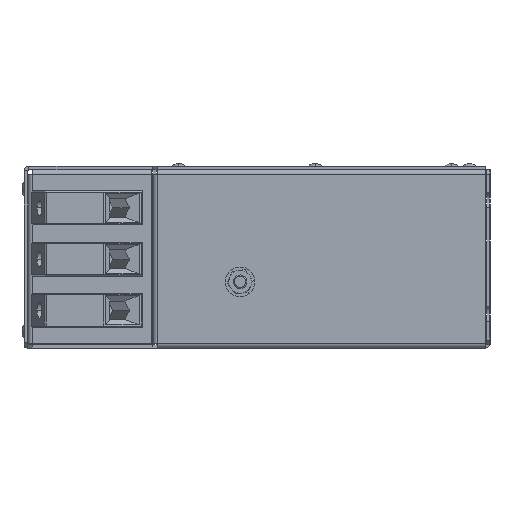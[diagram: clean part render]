
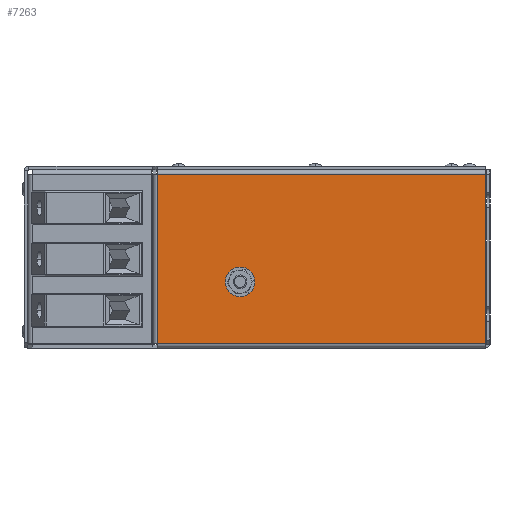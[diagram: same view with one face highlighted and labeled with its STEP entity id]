
A CAD part, left-side view. The second image highlights one B-rep face of the part: STEP entity #7263.
In plain terms, the highlighted planar face has unit normal (-1, 0, 0).
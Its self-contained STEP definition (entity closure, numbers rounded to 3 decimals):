
#12 = FACE_OUTER_BOUND ( 'NONE', #4838, .T. ) ;
#135 = CARTESIAN_POINT ( 'NONE',  ( -123.5, 108.5, -7.854 ) ) ;
#150 = CARTESIAN_POINT ( 'NONE',  ( -123.5, 145., 38.5 ) ) ;
#445 = AXIS2_PLACEMENT_3D ( 'NONE', #10516, #12132, #5688 ) ;
#608 = EDGE_CURVE ( 'NONE', #12983, #9228, #13428, .T. ) ;
#613 = VECTOR ( 'NONE', #6700, 1000. ) ;
#1248 = CARTESIAN_POINT ( 'NONE',  ( -123.5, 0.5, 36.5 ) ) ;
#2373 = ORIENTED_EDGE ( 'NONE', *, *, #16041, .T. ) ;
#2630 = FACE_BOUND ( 'NONE', #12050, .T. ) ;
#2802 = CARTESIAN_POINT ( 'NONE',  ( -123.5, 145., 36.5 ) ) ;
#2834 = DIRECTION ( 'NONE',  ( 0., 1., 0. ) ) ;
#3243 = VERTEX_POINT ( 'NONE', #3268 ) ;
#3257 = CIRCLE ( 'NONE', #5873, 3. ) ;
#3268 = CARTESIAN_POINT ( 'NONE',  ( -123.5, 0.5, -38. ) ) ;
#3401 = CARTESIAN_POINT ( 'NONE',  ( -123.5, 0.5, 0. ) ) ;
#3632 = ORIENTED_EDGE ( 'NONE', *, *, #11748, .F. ) ;
#4483 = DIRECTION ( 'NONE',  ( 0., 0., -1. ) ) ;
#4576 = ORIENTED_EDGE ( 'NONE', *, *, #15510, .T. ) ;
#4743 = LINE ( 'NONE', #10456, #11110 ) ;
#4838 = EDGE_LOOP ( 'NONE', ( #10202, #11732, #3632, #9262 ) ) ;
#5265 = VECTOR ( 'NONE', #16231, 1000. ) ;
#5296 = VERTEX_POINT ( 'NONE', #10604 ) ;
#5646 = CIRCLE ( 'NONE', #14056, 3. ) ;
#5688 = DIRECTION ( 'NONE',  ( 0., 0., -1. ) ) ;
#5768 = DIRECTION ( 'NONE',  ( 1., 0., 0. ) ) ;
#5864 = VERTEX_POINT ( 'NONE', #135 ) ;
#5873 = AXIS2_PLACEMENT_3D ( 'NONE', #7297, #13685, #9678 ) ;
#6663 = EDGE_CURVE ( 'NONE', #3243, #12983, #10630, .T. ) ;
#6700 = DIRECTION ( 'NONE',  ( 0., 0., -1. ) ) ;
#7263 = ADVANCED_FACE ( 'NONE', ( #2630, #12 ), #14280, .F. ) ;
#7297 = CARTESIAN_POINT ( 'NONE',  ( -123.5, 108.5, -10.854 ) ) ;
#7516 = CARTESIAN_POINT ( 'NONE',  ( -123.5, 0.5, 36.5 ) ) ;
#8026 = EDGE_CURVE ( 'NONE', #9228, #5296, #9544, .T. ) ;
#8273 = CARTESIAN_POINT ( 'NONE',  ( -123.5, 108.5, -10.854 ) ) ;
#9228 = VERTEX_POINT ( 'NONE', #2802 ) ;
#9262 = ORIENTED_EDGE ( 'NONE', *, *, #6663, .T. ) ;
#9544 = LINE ( 'NONE', #150, #613 ) ;
#9678 = DIRECTION ( 'NONE',  ( 0., 0., -1. ) ) ;
#10202 = ORIENTED_EDGE ( 'NONE', *, *, #608, .T. ) ;
#10456 = CARTESIAN_POINT ( 'NONE',  ( -123.5, 147., -38. ) ) ;
#10516 = CARTESIAN_POINT ( 'NONE',  ( -123.5, 0., 0. ) ) ;
#10604 = CARTESIAN_POINT ( 'NONE',  ( -123.5, 145., -38. ) ) ;
#10630 = LINE ( 'NONE', #3401, #5265 ) ;
#11110 = VECTOR ( 'NONE', #2834, 1000. ) ;
#11732 = ORIENTED_EDGE ( 'NONE', *, *, #8026, .T. ) ;
#11748 = EDGE_CURVE ( 'NONE', #3243, #5296, #4743, .T. ) ;
#11816 = CARTESIAN_POINT ( 'NONE',  ( -123.5, 108.5, -13.854 ) ) ;
#12050 = EDGE_LOOP ( 'NONE', ( #4576, #2373 ) ) ;
#12132 = DIRECTION ( 'NONE',  ( 1., 0., 0. ) ) ;
#12983 = VERTEX_POINT ( 'NONE', #1248 ) ;
#13024 = VERTEX_POINT ( 'NONE', #11816 ) ;
#13025 = VECTOR ( 'NONE', #16321, 1000. ) ;
#13428 = LINE ( 'NONE', #7516, #13025 ) ;
#13685 = DIRECTION ( 'NONE',  ( 1., 0., 0. ) ) ;
#14056 = AXIS2_PLACEMENT_3D ( 'NONE', #8273, #5768, #4483 ) ;
#14280 = PLANE ( 'NONE',  #445 ) ;
#15510 = EDGE_CURVE ( 'NONE', #13024, #5864, #3257, .T. ) ;
#16041 = EDGE_CURVE ( 'NONE', #5864, #13024, #5646, .T. ) ;
#16231 = DIRECTION ( 'NONE',  ( 0., 0., 1. ) ) ;
#16321 = DIRECTION ( 'NONE',  ( 0., 1., 0. ) ) ;
